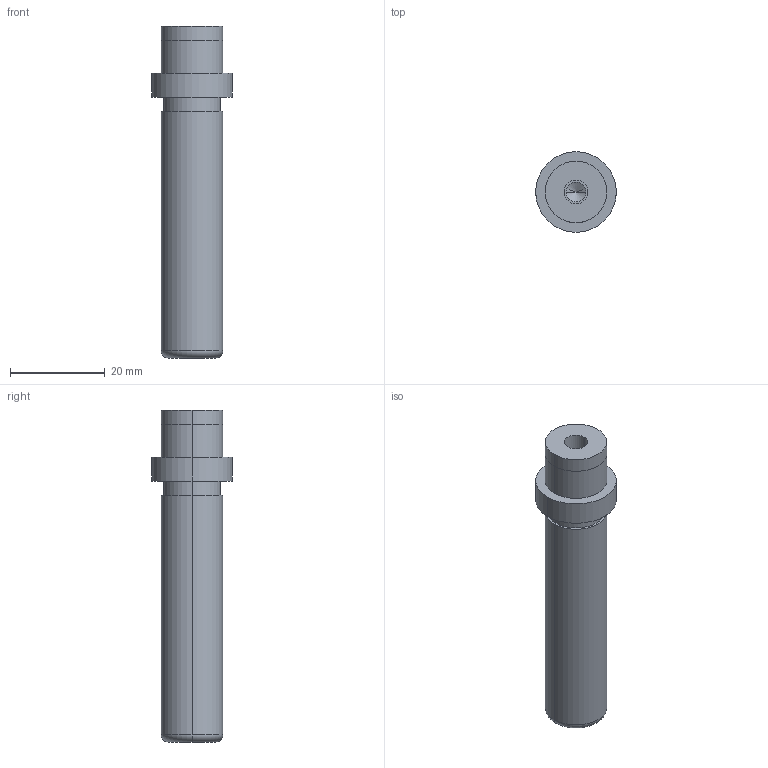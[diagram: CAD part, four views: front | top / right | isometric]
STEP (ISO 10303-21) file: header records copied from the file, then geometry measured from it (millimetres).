
FILE_DESCRIPTION(/* description */ (''),/* implementation_level */ '2;1');
FILE_NAME(/* name */ '3d_sgpw13-60_05303_r00.stp',/* time_stamp */ '2011-01-10T14:11:05+09:00',/* author */ ('MISUMI'),/* organization */ (''),/* preprocessor_version */ 'ST-DEVELOPER v11',/* originating_system */ 'UGS - NX 5.0',/* authorisation */ '');
FILE_SCHEMA (('CONFIG_CONTROL_DESIGN'));
Length unit declared in the file: millimetre
Products named in the file (1): 3d_sgpw13-60_05303_r00
Bounding box: 17 x 17 x 70 mm (x, y, z)
Volume: 9127.4 mm3; surface area: 3828 mm2
Topology: 1 solids, 1 shells, 31 faces, 64 edges, 38 vertices
Faces by surface type: cylinder 18, plane 7, cone 4, torus 2
Entity records: 890 total; most frequent: DIRECTION 162, CARTESIAN_POINT 130, ORIENTED_EDGE 120, AXIS2_PLACEMENT_3D 70, EDGE_CURVE 60, EDGE_LOOP 38, CIRCLE 38, VERTEX_POINT 38
